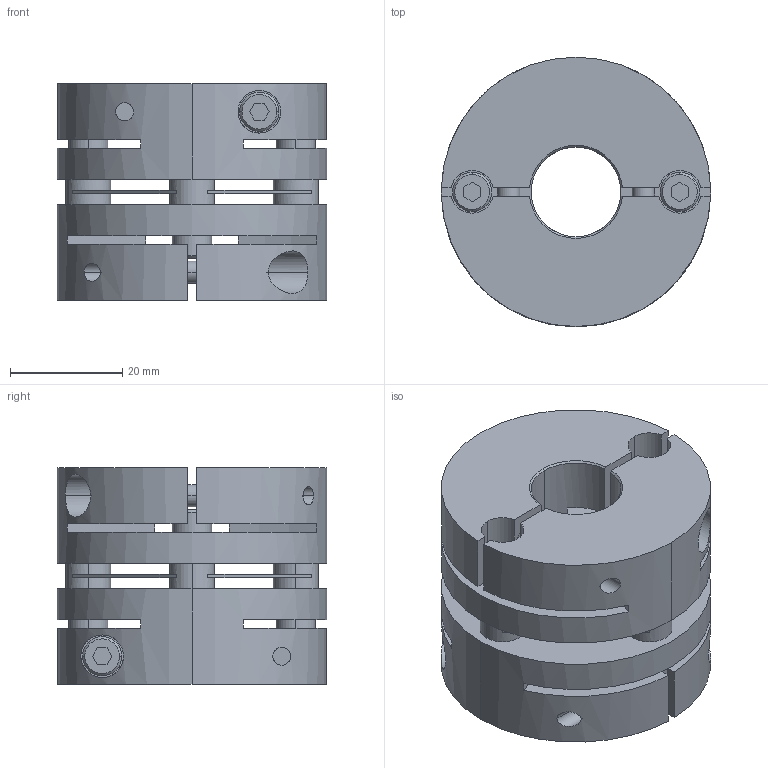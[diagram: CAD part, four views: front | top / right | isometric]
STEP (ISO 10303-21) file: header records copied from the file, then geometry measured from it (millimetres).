
FILE_DESCRIPTION((''),'2;1');
FILE_NAME('LAS-48C-16×19.stp','2011-08-09T17:00:27',(''),(''),'AutoCAD STEP 2000i','AutoCAD 2000i',', , ');
FILE_SCHEMA(('CONFIG_CONTROL_DESIGN'));
Length unit declared in the file: millimetre
Products named in the file (6): LAS-48C-12×19; 忣兜1; LA-4802-D19; LA-4802-D12-1; LA-4802-D12; LAS48-ITA
Assembly tree (5 placements, depth 2):
  LAS-48C-12×19
    忣兜1
    LA-4802-D19
    LA-4802-D12-1
    LA-4802-D12
    LAS48-ITA
Bounding box: 48 x 48 x 38.6 mm (x, y, z)
Volume: 48003.5 mm3; surface area: 22102.2 mm2
Topology: 1 solids, 1 shells, 224 faces, 600 edges, 392 vertices
Faces by surface type: plane 112, cylinder 84, cone 28
Entity records: 7841 total; most frequent: CARTESIAN_POINT 1878, DIRECTION 1256, ORIENTED_EDGE 1200, EDGE_CURVE 600, AXIS2_PLACEMENT_3D 458, VERTEX_POINT 392, VECTOR 340, LINE 340
